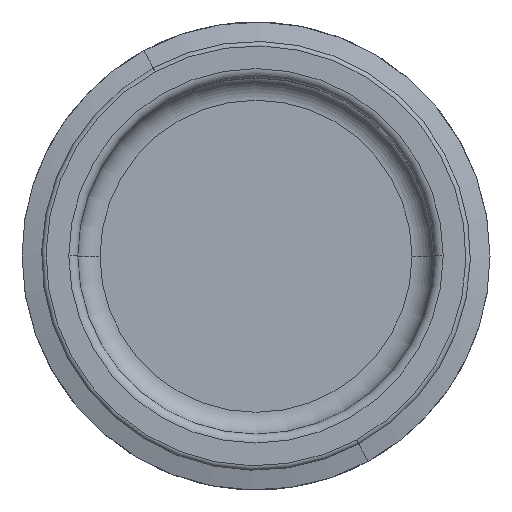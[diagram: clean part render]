
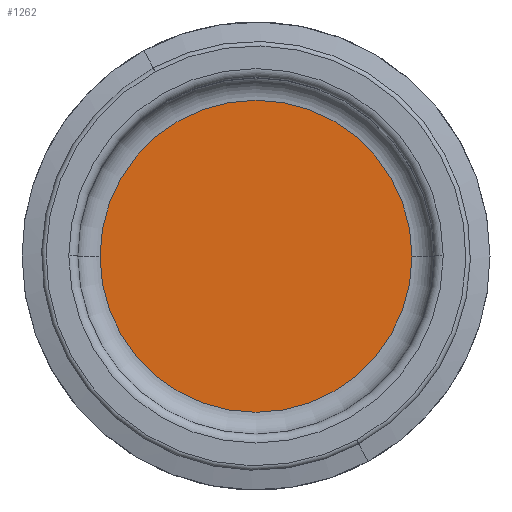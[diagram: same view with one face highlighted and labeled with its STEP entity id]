
A CAD part, top view. The second image highlights one B-rep face of the part: STEP entity #1262.
In plain terms, the highlighted planar face has unit normal (0, 0, 1).
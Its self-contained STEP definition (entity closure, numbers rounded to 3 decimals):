
#1242=AXIS2_PLACEMENT_3D('Plane Axis2P3D',#1239,#1240,#1241) ;
#1246=AXIS2_PLACEMENT_3D('Circle Axis2P3D',#1244,#1245,$) ;
#1255=AXIS2_PLACEMENT_3D('Circle Axis2P3D',#1253,#1254,$) ;
#1239=CARTESIAN_POINT('Axis2P3D Location',(0.,0.,60.)) ;
#1244=CARTESIAN_POINT('Axis2P3D Location',(0.,0.,60.)) ;
#1248=CARTESIAN_POINT('Vertex',(35.,0.,60.)) ;
#1250=CARTESIAN_POINT('Vertex',(-35.,0.,60.)) ;
#1253=CARTESIAN_POINT('Axis2P3D Location',(0.,0.,60.)) ;
#1240=DIRECTION('Axis2P3D Direction',(0.,0.,-1.)) ;
#1241=DIRECTION('Axis2P3D XDirection',(1.,0.,0.)) ;
#1245=DIRECTION('Axis2P3D Direction',(0.,0.,-1.)) ;
#1254=DIRECTION('Axis2P3D Direction',(0.,0.,-1.)) ;
#1259=ORIENTED_EDGE('',*,*,#1252,.T.) ;
#1260=ORIENTED_EDGE('',*,*,#1257,.T.) ;
#1262=ADVANCED_FACE('\X2\96F64EF651E04F554F53\X0\',(#1261),#1243,.F.) ;
#1247=CIRCLE('generated circle',#1246,35.) ;
#1256=CIRCLE('generated circle',#1255,35.) ;
#1252=EDGE_CURVE('',#1249,#1251,#1247,.F.) ;
#1257=EDGE_CURVE('',#1251,#1249,#1256,.F.) ;
#1258=EDGE_LOOP('',(#1259,#1260)) ;
#1261=FACE_OUTER_BOUND('',#1258,.T.) ;
#1243=PLANE('',#1242) ;
#1249=VERTEX_POINT('',#1248) ;
#1251=VERTEX_POINT('',#1250) ;
